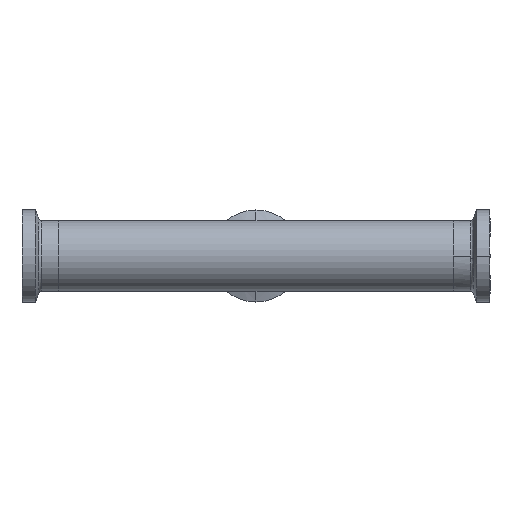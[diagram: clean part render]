
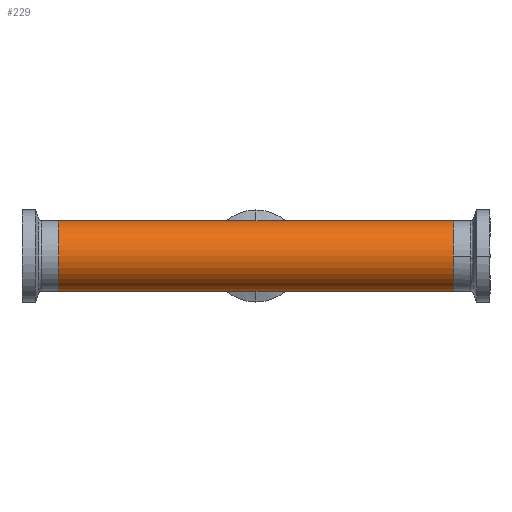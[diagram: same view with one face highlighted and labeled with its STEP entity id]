
A CAD part, front view. The second image highlights one B-rep face of the part: STEP entity #229.
In plain terms, the highlighted cylindrical face has radius 9.525 mm (diameter 19.05 mm), a partial arc.
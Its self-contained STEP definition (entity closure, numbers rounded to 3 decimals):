
#51 = CARTESIAN_POINT ( 'NONE',  ( -53.5, 0., 9.525 ) ) ;
#111 = EDGE_CURVE ( 'NONE', #177, #1246, #357, .T. ) ;
#166 = AXIS2_PLACEMENT_3D ( 'NONE', #738, #2305, #986 ) ;
#177 = VERTEX_POINT ( 'NONE', #2077 ) ;
#229 = ADVANCED_FACE ( 'NONE', ( #578 ), #506, .T. ) ;
#337 = VECTOR ( 'NONE', #571, 1000. ) ;
#357 = LINE ( 'NONE', #1090, #1655 ) ;
#506 = CYLINDRICAL_SURFACE ( 'NONE', #1479, 9.525 ) ;
#525 = EDGE_CURVE ( 'NONE', #2558, #1499, #946, .T. ) ;
#556 = EDGE_LOOP ( 'NONE', ( #775, #696, #1783, #965 ) ) ;
#560 = CARTESIAN_POINT ( 'NONE',  ( 80.441, 0., 9.525 ) ) ;
#571 = DIRECTION ( 'NONE',  ( -1., 0., 0. ) ) ;
#578 = FACE_OUTER_BOUND ( 'NONE', #556, .T. ) ;
#696 = ORIENTED_EDGE ( 'NONE', *, *, #2693, .T. ) ;
#738 = CARTESIAN_POINT ( 'NONE',  ( 53.5, 0., 0. ) ) ;
#741 = DIRECTION ( 'NONE',  ( 0., 0., 1. ) ) ;
#775 = ORIENTED_EDGE ( 'NONE', *, *, #111, .F. ) ;
#946 = LINE ( 'NONE', #560, #337 ) ;
#965 = ORIENTED_EDGE ( 'NONE', *, *, #1571, .T. ) ;
#986 = DIRECTION ( 'NONE',  ( 0., 0., 1. ) ) ;
#988 = CARTESIAN_POINT ( 'NONE',  ( 80.441, 0., 0. ) ) ;
#1090 = CARTESIAN_POINT ( 'NONE',  ( 80.441, 0., -9.525 ) ) ;
#1134 = CIRCLE ( 'NONE', #1805, 9.525 ) ;
#1185 = DIRECTION ( 'NONE',  ( 0., 0., 1. ) ) ;
#1199 = DIRECTION ( 'NONE',  ( 1., 0., 0. ) ) ;
#1230 = CARTESIAN_POINT ( 'NONE',  ( -53.5, 0., 0. ) ) ;
#1246 = VERTEX_POINT ( 'NONE', #1331 ) ;
#1331 = CARTESIAN_POINT ( 'NONE',  ( -53.5, 0., -9.525 ) ) ;
#1479 = AXIS2_PLACEMENT_3D ( 'NONE', #988, #2528, #741 ) ;
#1499 = VERTEX_POINT ( 'NONE', #51 ) ;
#1571 = EDGE_CURVE ( 'NONE', #1499, #1246, #1134, .T. ) ;
#1655 = VECTOR ( 'NONE', #1930, 1000. ) ;
#1750 = CIRCLE ( 'NONE', #166, 9.525 ) ;
#1783 = ORIENTED_EDGE ( 'NONE', *, *, #525, .T. ) ;
#1805 = AXIS2_PLACEMENT_3D ( 'NONE', #1230, #1199, #1185 ) ;
#1930 = DIRECTION ( 'NONE',  ( -1., 0., 0. ) ) ;
#2077 = CARTESIAN_POINT ( 'NONE',  ( 53.5, 0., -9.525 ) ) ;
#2305 = DIRECTION ( 'NONE',  ( -1., 0., 0. ) ) ;
#2528 = DIRECTION ( 'NONE',  ( -1., 0., 0. ) ) ;
#2558 = VERTEX_POINT ( 'NONE', #2712 ) ;
#2693 = EDGE_CURVE ( 'NONE', #177, #2558, #1750, .T. ) ;
#2712 = CARTESIAN_POINT ( 'NONE',  ( 53.5, 0., 9.525 ) ) ;
